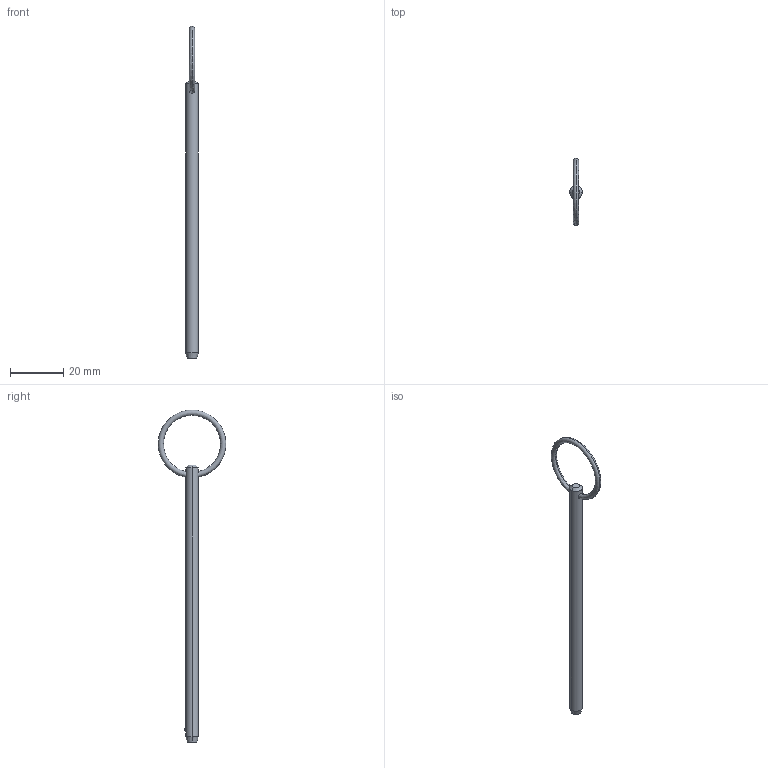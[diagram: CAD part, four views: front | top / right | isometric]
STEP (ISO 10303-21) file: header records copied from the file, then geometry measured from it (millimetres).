
FILE_DESCRIPTION (( 'STEP AP203' ), '1' );
FILE_NAME ('P1250.018-370.step', '2019-07-29T19:37:07', ( '' ), ( '' ), 'SwSTEP 2.0', 'SolidWorks 2017', '' );
FILE_SCHEMA (( 'CONFIG_CONTROL_DESIGN' ));
Length unit declared in the file: millimetre
Products named in the file (1): P1250.018-370
Bounding box: 4.76 x 25.4 x 124.48 mm (x, y, z)
Volume: 2050.1 mm3; surface area: 1995.7 mm2
Topology: 1 solids, 1 shells, 12 faces, 28 edges, 17 vertices
Faces by surface type: cone 4, torus 2, sphere 2, cylinder 2, plane 2
Entity records: 471 total; most frequent: CARTESIAN_POINT 138, DIRECTION 56, ORIENTED_EDGE 48, AXIS2_PLACEMENT_3D 25, EDGE_CURVE 24, EDGE_LOOP 15, VERTEX_POINT 15, ADVANCED_FACE 12
